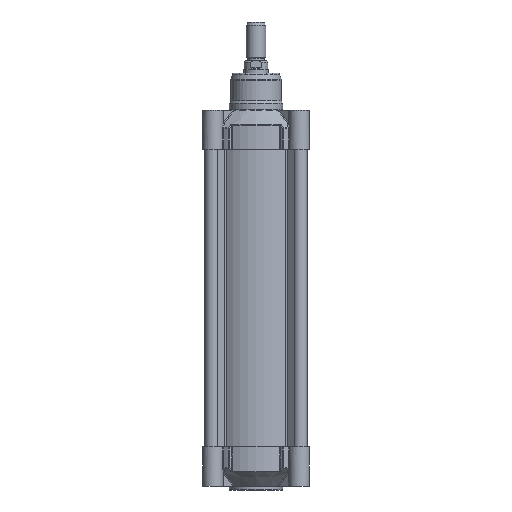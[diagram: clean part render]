
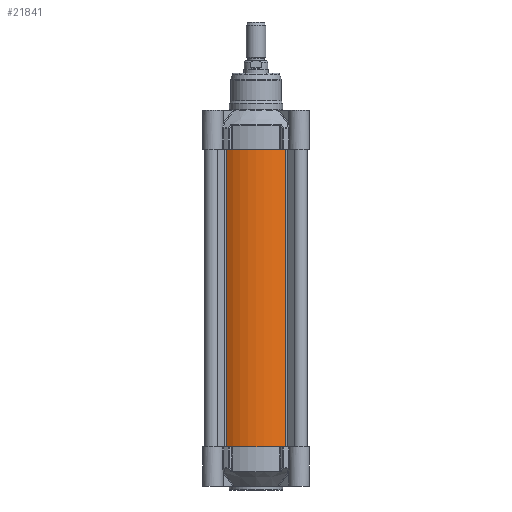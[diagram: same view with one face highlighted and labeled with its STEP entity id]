
A CAD part, left-side view. The second image highlights one B-rep face of the part: STEP entity #21841.
In plain terms, the highlighted cylindrical face has radius 52.7 mm (diameter 105.4 mm), a partial arc.
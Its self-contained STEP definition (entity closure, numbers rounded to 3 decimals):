
#1972=LINE('',#43617,#3030);
#1973=LINE('',#43621,#3031);
#3030=VECTOR('',#29906,10.);
#3031=VECTOR('',#29911,10.);
#4020=CYLINDRICAL_SURFACE('',#24279,52.7);
#5708=FACE_OUTER_BOUND('',#7393,.T.);
#7393=EDGE_LOOP('',(#18817,#18818,#18819,#18820));
#8528=CIRCLE('',#24118,52.7);
#8585=CIRCLE('',#24280,52.7);
#10334=VERTEX_POINT('',#43193);
#10335=VERTEX_POINT('',#43195);
#10441=VERTEX_POINT('',#43615);
#10442=VERTEX_POINT('',#43619);
#13081=EDGE_CURVE('',#10334,#10335,#8528,.T.);
#13292=EDGE_CURVE('',#10334,#10441,#1972,.T.);
#13293=EDGE_CURVE('',#10442,#10441,#8585,.T.);
#13294=EDGE_CURVE('',#10335,#10442,#1973,.T.);
#18817=ORIENTED_EDGE('',*,*,#13292,.T.);
#18818=ORIENTED_EDGE('',*,*,#13293,.F.);
#18819=ORIENTED_EDGE('',*,*,#13294,.F.);
#18820=ORIENTED_EDGE('',*,*,#13081,.F.);
#21841=ADVANCED_FACE('',(#5708),#4020,.T.);
#24118=AXIS2_PLACEMENT_3D('',#43196,#29430,#29431);
#24279=AXIS2_PLACEMENT_3D('',#43618,#29907,#29908);
#24280=AXIS2_PLACEMENT_3D('',#43620,#29909,#29910);
#29430=DIRECTION('center_axis',(0.,0.,-1.));
#29431=DIRECTION('ref_axis',(-0.586,-0.81,0.));
#29906=DIRECTION('',(0.,0.,1.));
#29907=DIRECTION('center_axis',(0.,0.,1.));
#29908=DIRECTION('ref_axis',(-0.586,-0.81,0.));
#29909=DIRECTION('center_axis',(0.,0.,1.));
#29910=DIRECTION('ref_axis',(-0.586,-0.81,0.));
#29911=DIRECTION('',(0.,0.,1.));
#43193=CARTESIAN_POINT('',(30.896,-42.693,-153.5));
#43195=CARTESIAN_POINT('',(-30.896,-42.693,-153.5));
#43196=CARTESIAN_POINT('Origin',(0.,0.,
-153.5));
#43615=CARTESIAN_POINT('',(30.896,-42.693,153.5));
#43617=CARTESIAN_POINT('',(30.896,-42.693,0.));
#43618=CARTESIAN_POINT('Origin',(0.,0.,
0.));
#43619=CARTESIAN_POINT('',(-30.896,-42.693,153.5));
#43620=CARTESIAN_POINT('Origin',(0.,0.,
153.5));
#43621=CARTESIAN_POINT('',(-30.896,-42.693,0.));
